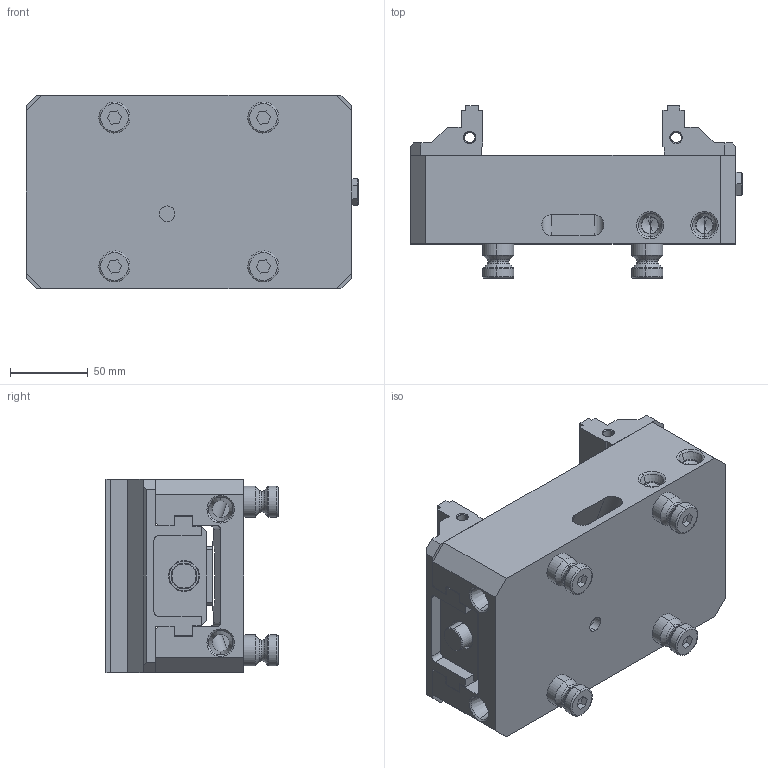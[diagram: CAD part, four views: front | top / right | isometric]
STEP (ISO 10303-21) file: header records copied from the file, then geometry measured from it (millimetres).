
FILE_DESCRIPTION (( 'STEP AP214' ), '1' );
FILE_NAME ('M96S-210.STEP', '2022-05-26T12:23:54', ( '' ), ( '' ), 'SwSTEP 2.0', 'SolidWorks 2018', '' );
FILE_SCHEMA (( 'AUTOMOTIVE_DESIGN' ));
Length unit declared in the file: millimetre
Products named in the file (1): M96S-210
Bounding box: 214 x 111.01 x 125 mm (x, y, z)
Surface area: 191053.8 mm2 (no closed solid volume)
Topology: 0 solids, 8 shells, 346 faces, 946 edges, 606 vertices
Faces by surface type: plane 192, cone 62, cylinder 52, torus 40
Entity records: 14788 total; most frequent: CARTESIAN_POINT 2179, DIRECTION 1854, ORIENTED_EDGE 1738, EDGE_CURVE 938, VECTOR 668, LINE 668, VERTEX_POINT 606, AXIS2_PLACEMENT_3D 593
